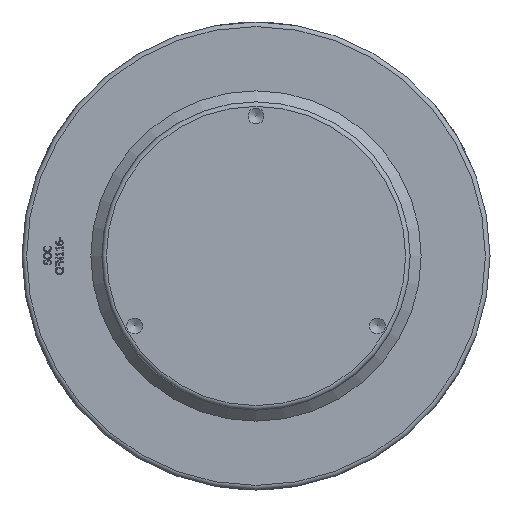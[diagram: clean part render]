
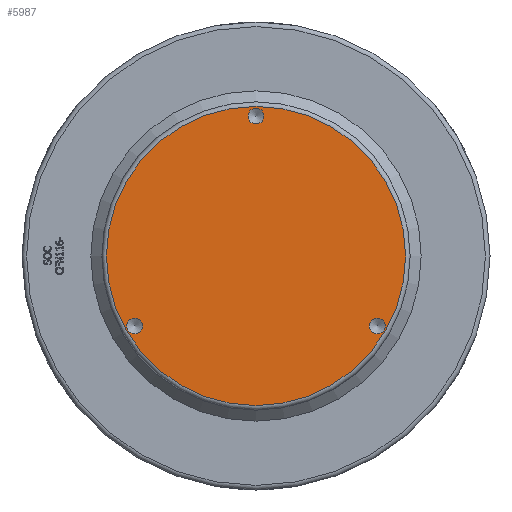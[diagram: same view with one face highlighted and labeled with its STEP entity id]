
A CAD part, front view. The second image highlights one B-rep face of the part: STEP entity #5987.
In plain terms, the highlighted planar face has unit normal (0, -1, 0) as drawn and (0, 1, 0) by its records, which use the part's own axes.
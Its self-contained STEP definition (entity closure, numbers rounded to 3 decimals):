
#1646=PLANE('',#6305);
#1736=FACE_BOUND('',#2307,.T.);
#1737=FACE_BOUND('',#2308,.T.);
#1738=FACE_BOUND('',#2309,.T.);
#1950=FACE_OUTER_BOUND('',#2306,.T.);
#2306=EDGE_LOOP('',(#4899));
#2307=EDGE_LOOP('',(#4900));
#2308=EDGE_LOOP('',(#4901));
#2309=EDGE_LOOP('',(#4902));
#2525=CIRCLE('',#6221,8.647);
#2527=CIRCLE('',#6225,8.647);
#2529=CIRCLE('',#6229,8.647);
#2531=CIRCLE('',#6303,163.);
#2551=VERTEX_POINT('',#7354);
#2553=VERTEX_POINT('',#7360);
#2555=VERTEX_POINT('',#7366);
#2841=VERTEX_POINT('',#9314);
#3155=EDGE_CURVE('',#2551,#2551,#2525,.T.);
#3157=EDGE_CURVE('',#2553,#2553,#2527,.T.);
#3159=EDGE_CURVE('',#2555,#2555,#2529,.T.);
#3587=EDGE_CURVE('',#2841,#2841,#2531,.T.);
#4899=ORIENTED_EDGE('',*,*,#3587,.F.);
#4900=ORIENTED_EDGE('',*,*,#3155,.T.);
#4901=ORIENTED_EDGE('',*,*,#3157,.T.);
#4902=ORIENTED_EDGE('',*,*,#3159,.T.);
#5987=ADVANCED_FACE('',(#1950,#1736,#1737,#1738),#1646,.T.);
#6221=AXIS2_PLACEMENT_3D('',#7355,#6431,#6432);
#6225=AXIS2_PLACEMENT_3D('',#7361,#6439,#6440);
#6229=AXIS2_PLACEMENT_3D('',#7367,#6447,#6448);
#6303=AXIS2_PLACEMENT_3D('',#9315,#6855,#6856);
#6305=AXIS2_PLACEMENT_3D('',#9318,#6859,#6860);
#6431=DIRECTION('center_axis',(0.,-1.,0.));
#6432=DIRECTION('ref_axis',(-0.5,0.,-0.866));
#6439=DIRECTION('center_axis',(0.,-1.,0.));
#6440=DIRECTION('ref_axis',(-0.5,0.,0.866));
#6447=DIRECTION('center_axis',(0.,-1.,0.));
#6448=DIRECTION('ref_axis',(1.,0.,0.));
#6855=DIRECTION('center_axis',(0.,-1.,0.));
#6856=DIRECTION('ref_axis',(-1.,0.,0.));
#6859=DIRECTION('center_axis',(0.,1.,0.));
#6860=DIRECTION('ref_axis',(0.,0.,1.));
#7354=CARTESIAN_POINT('',(127.745,304.5,-83.739));
#7355=CARTESIAN_POINT('Origin',(132.069,304.5,-76.25));
#7360=CARTESIAN_POINT('',(-136.392,304.5,-68.761));
#7361=CARTESIAN_POINT('Origin',(-132.069,304.5,-76.25));
#7366=CARTESIAN_POINT('',(8.647,304.5,152.5));
#7367=CARTESIAN_POINT('Origin',(0.,304.5,152.5));
#9314=CARTESIAN_POINT('',(163.,304.5,0.));
#9315=CARTESIAN_POINT('Origin',(0.,304.5,0.));
#9318=CARTESIAN_POINT('Origin',(168.,304.5,0.));
